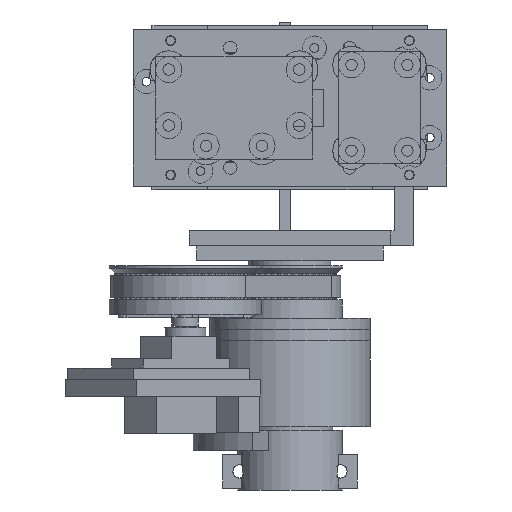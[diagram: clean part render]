
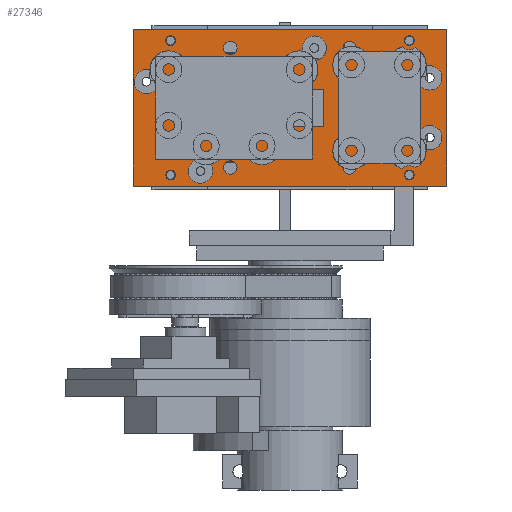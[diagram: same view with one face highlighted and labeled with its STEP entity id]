
A CAD part, front view. The second image highlights one B-rep face of the part: STEP entity #27346.
In plain terms, the highlighted planar face has unit normal (0, -1, 0).
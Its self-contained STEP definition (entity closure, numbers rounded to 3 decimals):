
#26734 = VERTEX_POINT('',#26735);
#26735 = CARTESIAN_POINT('',(-2.5,55.,195.5));
#26741 = EDGE_CURVE('',#26734,#26742,#26744,.T.);
#26742 = VERTEX_POINT('',#26743);
#26743 = CARTESIAN_POINT('',(81.5,55.,195.5));
#26744 = LINE('',#26745,#26746);
#26745 = CARTESIAN_POINT('',(-2.5,55.,195.5));
#26746 = VECTOR('',#26747,1.);
#26747 = DIRECTION('',(1.,0.,0.));
#26826 = VERTEX_POINT('',#26827);
#26827 = CARTESIAN_POINT('',(-2.5,55.,237.5));
#26833 = EDGE_CURVE('',#26826,#26834,#26836,.T.);
#26834 = VERTEX_POINT('',#26835);
#26835 = CARTESIAN_POINT('',(81.5,55.,237.5));
#26836 = LINE('',#26837,#26838);
#26837 = CARTESIAN_POINT('',(-2.5,55.,237.5));
#26838 = VECTOR('',#26839,1.);
#26839 = DIRECTION('',(1.,0.,0.));
#26870 = EDGE_CURVE('',#26734,#26826,#26871,.T.);
#26871 = LINE('',#26872,#26873);
#26872 = CARTESIAN_POINT('',(-2.5,55.,195.5));
#26873 = VECTOR('',#26874,1.);
#26874 = DIRECTION('',(0.,0.,1.));
#26889 = VERTEX_POINT('',#26890);
#26890 = CARTESIAN_POINT('',(7.5,55.,199.8));
#26896 = EDGE_CURVE('',#26889,#26889,#26897,.T.);
#26897 = CIRCLE('',#26898,1.3);
#26898 = AXIS2_PLACEMENT_3D('',#26899,#26900,#26901);
#26899 = CARTESIAN_POINT('',(7.5,55.,198.5));
#26900 = DIRECTION('',(0.,1.,0.));
#26901 = DIRECTION('',(0.,0.,1.));
#26934 = VERTEX_POINT('',#26935);
#26935 = CARTESIAN_POINT('',(7.5,55.,235.8));
#26941 = EDGE_CURVE('',#26934,#26934,#26942,.T.);
#26942 = CIRCLE('',#26943,1.3);
#26943 = AXIS2_PLACEMENT_3D('',#26944,#26945,#26946);
#26944 = CARTESIAN_POINT('',(7.5,55.,234.5));
#26945 = DIRECTION('',(0.,1.,0.));
#26946 = DIRECTION('',(0.,0.,1.));
#26986 = VERTEX_POINT('',#26987);
#26987 = CARTESIAN_POINT('',(23.5,55.,202.3));
#26993 = EDGE_CURVE('',#26986,#26986,#26994,.T.);
#26994 = CIRCLE('',#26995,1.8);
#26995 = AXIS2_PLACEMENT_3D('',#26996,#26997,#26998);
#26996 = CARTESIAN_POINT('',(23.5,55.,200.5));
#26997 = DIRECTION('',(0.,1.,0.));
#26998 = DIRECTION('',(0.,0.,1.));
#27011 = VERTEX_POINT('',#27012);
#27012 = CARTESIAN_POINT('',(23.5,55.,234.3));
#27018 = EDGE_CURVE('',#27011,#27011,#27019,.T.);
#27019 = CIRCLE('',#27020,1.8);
#27020 = AXIS2_PLACEMENT_3D('',#27021,#27022,#27023);
#27021 = CARTESIAN_POINT('',(23.5,55.,232.5));
#27022 = DIRECTION('',(0.,1.,0.));
#27023 = DIRECTION('',(0.,0.,1.));
#27156 = VERTEX_POINT('',#27157);
#27157 = CARTESIAN_POINT('',(55.5,55.,202.3));
#27163 = EDGE_CURVE('',#27156,#27156,#27164,.T.);
#27164 = CIRCLE('',#27165,1.8);
#27165 = AXIS2_PLACEMENT_3D('',#27166,#27167,#27168);
#27166 = CARTESIAN_POINT('',(55.5,55.,200.5));
#27167 = DIRECTION('',(0.,1.,0.));
#27168 = DIRECTION('',(0.,0.,1.));
#27206 = VERTEX_POINT('',#27207);
#27207 = CARTESIAN_POINT('',(55.5,55.,234.3));
#27213 = EDGE_CURVE('',#27206,#27206,#27214,.T.);
#27214 = CIRCLE('',#27215,1.8);
#27215 = AXIS2_PLACEMENT_3D('',#27216,#27217,#27218);
#27216 = CARTESIAN_POINT('',(55.5,55.,232.5));
#27217 = DIRECTION('',(0.,1.,0.));
#27218 = DIRECTION('',(0.,0.,1.));
#27333 = EDGE_CURVE('',#26742,#26834,#27334,.T.);
#27334 = LINE('',#27335,#27336);
#27335 = CARTESIAN_POINT('',(81.5,55.,195.5));
#27336 = VECTOR('',#27337,1.);
#27337 = DIRECTION('',(0.,0.,1.));
#27346 = ADVANCED_FACE('',(#27347,#27353,#27356,#27367,#27370,#27381,
    #27384,#27387,#27390,#27401,#27412,#27446,#27457,#27460,#27471,
    #27482),#27493,.F.);
#27347 = FACE_BOUND('',#27348,.F.);
#27348 = EDGE_LOOP('',(#27349,#27350,#27351,#27352));
#27349 = ORIENTED_EDGE('',*,*,#26741,.F.);
#27350 = ORIENTED_EDGE('',*,*,#26870,.T.);
#27351 = ORIENTED_EDGE('',*,*,#26833,.T.);
#27352 = ORIENTED_EDGE('',*,*,#27333,.F.);
#27353 = FACE_BOUND('',#27354,.F.);
#27354 = EDGE_LOOP('',(#27355));
#27355 = ORIENTED_EDGE('',*,*,#26896,.F.);
#27356 = FACE_BOUND('',#27357,.F.);
#27357 = EDGE_LOOP('',(#27358));
#27358 = ORIENTED_EDGE('',*,*,#27359,.F.);
#27359 = EDGE_CURVE('',#27360,#27360,#27362,.T.);
#27360 = VERTEX_POINT('',#27361);
#27361 = CARTESIAN_POINT('',(15.5,55.,200.8));
#27362 = CIRCLE('',#27363,1.3);
#27363 = AXIS2_PLACEMENT_3D('',#27364,#27365,#27366);
#27364 = CARTESIAN_POINT('',(15.5,55.,199.5));
#27365 = DIRECTION('',(0.,1.,0.));
#27366 = DIRECTION('',(0.,0.,1.));
#27367 = FACE_BOUND('',#27368,.F.);
#27368 = EDGE_LOOP('',(#27369));
#27369 = ORIENTED_EDGE('',*,*,#26993,.F.);
#27370 = FACE_BOUND('',#27371,.F.);
#27371 = EDGE_LOOP('',(#27372));
#27372 = ORIENTED_EDGE('',*,*,#27373,.F.);
#27373 = EDGE_CURVE('',#27374,#27374,#27376,.T.);
#27374 = VERTEX_POINT('',#27375);
#27375 = CARTESIAN_POINT('',(1.,55.,224.8));
#27376 = CIRCLE('',#27377,1.3);
#27377 = AXIS2_PLACEMENT_3D('',#27378,#27379,#27380);
#27378 = CARTESIAN_POINT('',(1.,55.,223.5));
#27379 = DIRECTION('',(0.,1.,0.));
#27380 = DIRECTION('',(0.,0.,1.));
#27381 = FACE_BOUND('',#27382,.F.);
#27382 = EDGE_LOOP('',(#27383));
#27383 = ORIENTED_EDGE('',*,*,#26941,.F.);
#27384 = FACE_BOUND('',#27385,.F.);
#27385 = EDGE_LOOP('',(#27386));
#27386 = ORIENTED_EDGE('',*,*,#27018,.F.);
#27387 = FACE_BOUND('',#27388,.F.);
#27388 = EDGE_LOOP('',(#27389));
#27389 = ORIENTED_EDGE('',*,*,#27163,.F.);
#27390 = FACE_BOUND('',#27391,.F.);
#27391 = EDGE_LOOP('',(#27392));
#27392 = ORIENTED_EDGE('',*,*,#27393,.F.);
#27393 = EDGE_CURVE('',#27394,#27394,#27396,.T.);
#27394 = VERTEX_POINT('',#27395);
#27395 = CARTESIAN_POINT('',(71.5,55.,199.8));
#27396 = CIRCLE('',#27397,1.3);
#27397 = AXIS2_PLACEMENT_3D('',#27398,#27399,#27400);
#27398 = CARTESIAN_POINT('',(71.5,55.,198.5));
#27399 = DIRECTION('',(0.,1.,0.));
#27400 = DIRECTION('',(0.,0.,1.));
#27401 = FACE_BOUND('',#27402,.F.);
#27402 = EDGE_LOOP('',(#27403));
#27403 = ORIENTED_EDGE('',*,*,#27404,.F.);
#27404 = EDGE_CURVE('',#27405,#27405,#27407,.T.);
#27405 = VERTEX_POINT('',#27406);
#27406 = CARTESIAN_POINT('',(77.,55.,209.8));
#27407 = CIRCLE('',#27408,1.3);
#27408 = AXIS2_PLACEMENT_3D('',#27409,#27410,#27411);
#27409 = CARTESIAN_POINT('',(77.,55.,208.5));
#27410 = DIRECTION('',(0.,1.,0.));
#27411 = DIRECTION('',(0.,0.,1.));
#27412 = FACE_BOUND('',#27413,.F.);
#27413 = EDGE_LOOP('',(#27414,#27424,#27432,#27440));
#27414 = ORIENTED_EDGE('',*,*,#27415,.F.);
#27415 = EDGE_CURVE('',#27416,#27418,#27420,.T.);
#27416 = VERTEX_POINT('',#27417);
#27417 = CARTESIAN_POINT('',(30.5,55.,221.5));
#27418 = VERTEX_POINT('',#27419);
#27419 = CARTESIAN_POINT('',(48.5,55.,221.5));
#27420 = LINE('',#27421,#27422);
#27421 = CARTESIAN_POINT('',(14.,55.,221.5));
#27422 = VECTOR('',#27423,1.);
#27423 = DIRECTION('',(1.,0.,0.));
#27424 = ORIENTED_EDGE('',*,*,#27425,.T.);
#27425 = EDGE_CURVE('',#27416,#27426,#27428,.T.);
#27426 = VERTEX_POINT('',#27427);
#27427 = CARTESIAN_POINT('',(30.5,55.,211.5));
#27428 = LINE('',#27429,#27430);
#27429 = CARTESIAN_POINT('',(30.5,55.,203.5));
#27430 = VECTOR('',#27431,1.);
#27431 = DIRECTION('',(0.,0.,-1.));
#27432 = ORIENTED_EDGE('',*,*,#27433,.T.);
#27433 = EDGE_CURVE('',#27426,#27434,#27436,.T.);
#27434 = VERTEX_POINT('',#27435);
#27435 = CARTESIAN_POINT('',(48.5,55.,211.5));
#27436 = LINE('',#27437,#27438);
#27437 = CARTESIAN_POINT('',(14.,55.,211.5));
#27438 = VECTOR('',#27439,1.);
#27439 = DIRECTION('',(1.,0.,0.));
#27440 = ORIENTED_EDGE('',*,*,#27441,.F.);
#27441 = EDGE_CURVE('',#27418,#27434,#27442,.T.);
#27442 = LINE('',#27443,#27444);
#27443 = CARTESIAN_POINT('',(48.5,55.,203.5));
#27444 = VECTOR('',#27445,1.);
#27445 = DIRECTION('',(0.,0.,-1.));
#27446 = FACE_BOUND('',#27447,.F.);
#27447 = EDGE_LOOP('',(#27448));
#27448 = ORIENTED_EDGE('',*,*,#27449,.F.);
#27449 = EDGE_CURVE('',#27450,#27450,#27452,.T.);
#27450 = VERTEX_POINT('',#27451);
#27451 = CARTESIAN_POINT('',(46.,55.,233.8));
#27452 = CIRCLE('',#27453,1.3);
#27453 = AXIS2_PLACEMENT_3D('',#27454,#27455,#27456);
#27454 = CARTESIAN_POINT('',(46.,55.,232.5));
#27455 = DIRECTION('',(0.,1.,0.));
#27456 = DIRECTION('',(0.,0.,1.));
#27457 = FACE_BOUND('',#27458,.F.);
#27458 = EDGE_LOOP('',(#27459));
#27459 = ORIENTED_EDGE('',*,*,#27213,.F.);
#27460 = FACE_BOUND('',#27461,.F.);
#27461 = EDGE_LOOP('',(#27462));
#27462 = ORIENTED_EDGE('',*,*,#27463,.F.);
#27463 = EDGE_CURVE('',#27464,#27464,#27466,.T.);
#27464 = VERTEX_POINT('',#27465);
#27465 = CARTESIAN_POINT('',(77.,55.,225.8));
#27466 = CIRCLE('',#27467,1.3);
#27467 = AXIS2_PLACEMENT_3D('',#27468,#27469,#27470);
#27468 = CARTESIAN_POINT('',(77.,55.,224.5));
#27469 = DIRECTION('',(0.,1.,0.));
#27470 = DIRECTION('',(0.,0.,1.));
#27471 = FACE_BOUND('',#27472,.F.);
#27472 = EDGE_LOOP('',(#27473));
#27473 = ORIENTED_EDGE('',*,*,#27474,.F.);
#27474 = EDGE_CURVE('',#27475,#27475,#27477,.T.);
#27475 = VERTEX_POINT('',#27476);
#27476 = CARTESIAN_POINT('',(64.,55.,229.8));
#27477 = CIRCLE('',#27478,1.3);
#27478 = AXIS2_PLACEMENT_3D('',#27479,#27480,#27481);
#27479 = CARTESIAN_POINT('',(64.,55.,228.5));
#27480 = DIRECTION('',(0.,1.,0.));
#27481 = DIRECTION('',(0.,0.,1.));
#27482 = FACE_BOUND('',#27483,.F.);
#27483 = EDGE_LOOP('',(#27484));
#27484 = ORIENTED_EDGE('',*,*,#27485,.F.);
#27485 = EDGE_CURVE('',#27486,#27486,#27488,.T.);
#27486 = VERTEX_POINT('',#27487);
#27487 = CARTESIAN_POINT('',(71.5,55.,235.8));
#27488 = CIRCLE('',#27489,1.3);
#27489 = AXIS2_PLACEMENT_3D('',#27490,#27491,#27492);
#27490 = CARTESIAN_POINT('',(71.5,55.,234.5));
#27491 = DIRECTION('',(0.,1.,0.));
#27492 = DIRECTION('',(0.,0.,1.));
#27493 = PLANE('',#27494);
#27494 = AXIS2_PLACEMENT_3D('',#27495,#27496,#27497);
#27495 = CARTESIAN_POINT('',(-2.5,55.,195.5));
#27496 = DIRECTION('',(0.,1.,0.));
#27497 = DIRECTION('',(0.,0.,1.));
